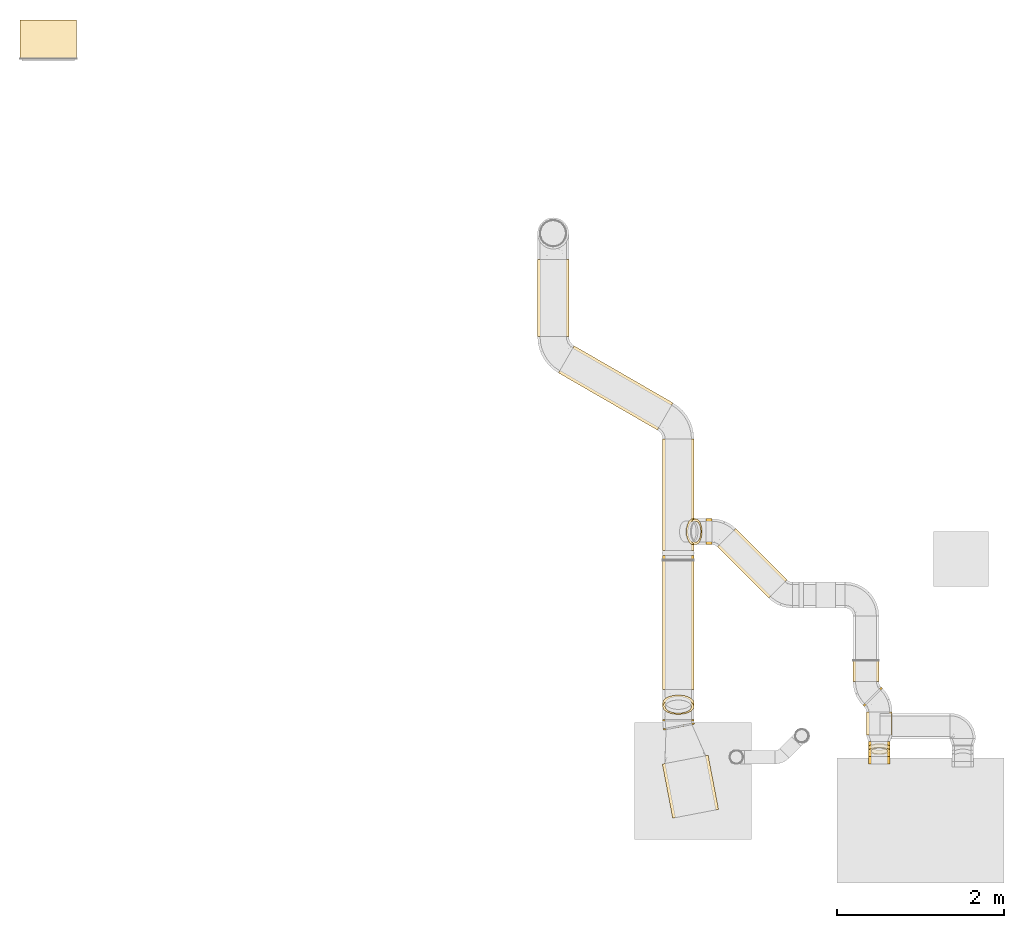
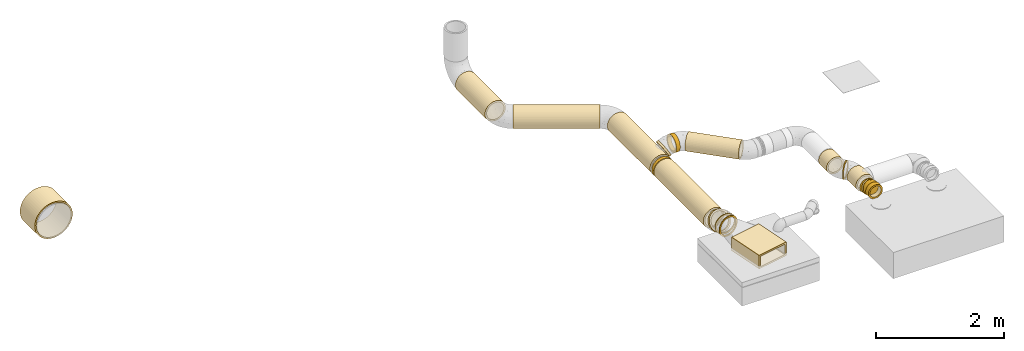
# One storey, part 1 of 21: 20 coverings.
"""IFC2X3 building model written with IfcOpenShell, lengths in millimetres."""

from ifc_helpers import new_model, entity, si_unit, converted_unit, derived_unit, direction, frame, origin_with_axes, origin_2d_with_axis, place, context, subcontext, project, spatial, hollow_rectangle, hollow_circle, extrude, open_shell, surface_model, source, transform, mapped, element, save


model = new_model("IFC2X3")

# Units and contexts
model_context = context("Model", 3, precision=0.01, world=frame((0.0, 4.29681676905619e-09, 0.0)), true_north=direction((4.01073788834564e-13, 1.0)))
plan_context = context("Plan", 3, precision=0.01, world=frame((0.0, 4.29681676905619e-09, 0.0)), true_north=direction((4.01073788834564e-13, 1.0)))
body_context = subcontext(model_context, "Body", "Model", "MODEL_VIEW")
ifc_project = project(units=[converted_unit("PLANEANGLEUNIT", "DEGREE", entity("IfcPositiveLengthMeasure", 0.0174532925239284), si_unit("PLANEANGLEUNIT", "RADIAN"), dimensions=[0, 0, 0, 0, 0, 0, 0]), si_unit("AREAUNIT", "SQUARE_METRE"), si_unit("LENGTHUNIT", "METRE", prefix="MILLI"), si_unit("MASSUNIT", "GRAM", prefix="KILO"), si_unit("POWERUNIT", "WATT"), si_unit("PRESSUREUNIT", "PASCAL"), si_unit("FORCEUNIT", "NEWTON", prefix="KILO"), si_unit("ELECTRICVOLTAGEUNIT", "VOLT"), si_unit("ELECTRICCURRENTUNIT", "AMPERE"), si_unit("THERMODYNAMICTEMPERATUREUNIT", "DEGREE_CELSIUS"), si_unit("TIMEUNIT", "SECOND"), si_unit("VOLUMEUNIT", "CUBIC_METRE"), derived_unit("LINEARVELOCITYUNIT", [(si_unit("LENGTHUNIT", "METRE"), 1), (si_unit("TIMEUNIT", "SECOND"), -1)]), derived_unit("VOLUMETRICFLOWRATEUNIT", [(si_unit("VOLUMEUNIT", "CUBIC_METRE"), 1), (si_unit("TIMEUNIT", "SECOND"), -1)]), derived_unit("THERMALTRANSMITTANCEUNIT", [(si_unit("POWERUNIT", "WATT"), 1), (si_unit("THERMODYNAMICTEMPERATUREUNIT", "KELVIN"), -1), (si_unit("AREAUNIT", "SQUARE_METRE"), -1)]), derived_unit("SOUNDPRESSUREUNIT", [(si_unit("PRESSUREUNIT", "PASCAL"), 1)])], contexts=[model_context, plan_context])

# Site, building, storey
site_placement = place(None, frame((0.0, -4.29681676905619e-09, 0.0), z_axis=(0.0, 0.0, 1.0), x_axis=(1.0, 0.0, 0.0)))
site = spatial("IfcSite", under=ifc_project, at=site_placement, Name="ENGM", CompositionType="ELEMENT")
building_placement = place(site_placement, frame((0.0, 4.29681676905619e-09, 0.0), z_axis=(0.0, 0.0, 1.0), x_axis=(1.0, 0.0, 0.0)))
building = spatial("IfcBuilding", under=site, at=building_placement, Name="TI", CompositionType="ELEMENT")
storey_placement = place(building_placement, frame((0.0, 0.0, 210900.0), z_axis=(0.0, 0.0, 1.0), x_axis=(1.0, 0.0, 0.0)))
storey = spatial("IfcBuildingStorey", under=building, at=storey_placement, Name="Nivå F", CompositionType="ELEMENT", Elevation=210900.0)

# Coverings
shared_shape_1 = source(origin_with_axes(), body_context, "Body", "SweptSolid", [
    extrude(hollow_circle(Radius=340.0, WallThickness=25.0, at=origin_2d_with_axis()), frame((0.0, 0.0, 0.0), z_axis=(1.0, 0.0, 0.0), x_axis=(0.0, 1.0, 0.0)), (0.0, 0.0, 1.0), 464.2),
])
covering_1_placement = place(storey_placement, frame((599767.06731, 699195.62991, 463.400699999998), z_axis=(-1.999999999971e-06, 4.9999999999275e-06, 0.9999999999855), x_axis=(-2.1999999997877e-11, 0.9999999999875, -4.9999999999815e-06)))
element("IfcCovering", 1, at=covering_1_placement, inside=storey, Name="T=25mm", PredefinedType="INSULATION", context=body_context, shape_type="MappedRepresentation", body=[
    mapped(shared_shape_1, transform((0.0, 0.0, 0.0), scale=1.0)),
])
shared_shape_2 = source(origin_with_axes(), body_context, "Body", "SweptSolid", [
    extrude(hollow_circle(Radius=187.5, WallThickness=30.0, at=origin_2d_with_axis()), frame((0.0, 0.0, 0.0), z_axis=(1.0, 0.0, 0.0), x_axis=(0.0, 1.0, 0.0)), (0.0, 0.0, 1.0), 923.1),
])
covering_2_placement = place(storey_placement, frame((605819.77046, 696786.72271, 2446.77402000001), z_axis=(0.0, 0.0, 1.0), x_axis=(0.0, -1.0, 0.0)))
element("IfcCovering", 2, at=covering_2_placement, inside=storey, Name="B-EI60", PredefinedType="INSULATION", context=body_context, shape_type="MappedRepresentation", body=[
    mapped(shared_shape_2, transform((0.0, 0.0, 0.0), scale=1.0)),
])
shared_shape_3 = source(origin_with_axes(), body_context, "Body", "SweptSolid", [
    extrude(hollow_circle(Radius=187.5, WallThickness=30.0, at=origin_2d_with_axis()), frame((0.0, 0.0, 0.0), z_axis=(1.0, 0.0, 0.0), x_axis=(0.0, 1.0, 0.0)), (0.0, 0.0, 1.0), 1368.3),
])
covering_3_placement = place(storey_placement, frame((605977.27046, 695590.79004, 2446.77402000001), z_axis=(0.0, 0.0, 1.0), x_axis=(0.866025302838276, -0.500000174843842, 0.0)))
element("IfcCovering", 3, at=covering_3_placement, inside=storey, Name="B-EI60", PredefinedType="INSULATION", context=body_context, shape_type="MappedRepresentation", body=[
    mapped(shared_shape_3, transform((0.0, 0.0, 0.0), scale=1.0)),
])
shared_shape_4 = source(origin_with_axes(), body_context, "Body", "SweptSolid", [
    extrude(hollow_circle(Radius=155.0, WallThickness=30.0, at=origin_2d_with_axis()), frame((0.0, 0.0, 0.0), z_axis=(1.0, 0.0, 0.0), x_axis=(0.0, 1.0, 0.0)), (0.0, 0.0, 1.0), 38.0),
])
covering_4_placement = place(storey_placement, frame((607527.17533, 693525.29135, 2566.50633999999), z_axis=(-0.500000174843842, 0.0, 0.866025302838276), x_axis=(-0.866025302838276, 0.0, -0.500000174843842)))
element("IfcCovering", 4, at=covering_4_placement, inside=storey, Name="B-EI60", PredefinedType="INSULATION", context=body_context, shape_type="MappedRepresentation", body=[
    mapped(shared_shape_4, transform((0.0, 0.0, 0.0), scale=1.0)),
])
shared_shape_5 = source(origin_with_axes(), body_context, "Body", "SweptSolid", [
    extrude(hollow_circle(Radius=187.5, WallThickness=30.0, at=origin_2d_with_axis()), frame((0.0, 0.0, 0.0), z_axis=(1.0, 0.0, 0.0), x_axis=(0.0, 1.0, 0.0)), (0.0, 0.0, 1.0), 1336.6),
])
covering_5_placement = place(storey_placement, frame((607319.79165, 694633.81974, 2446.77914), z_axis=(0.0, 0.0, 1.0), x_axis=(0.0, -1.0, 0.0)))
element("IfcCovering", 5, at=covering_5_placement, inside=storey, Name="B-EI60", PredefinedType="INSULATION", context=body_context, shape_type="MappedRepresentation", body=[
    mapped(shared_shape_5, transform((0.0, 0.0, 0.0), scale=1.0)),
])
shared_shape_6 = source(origin_with_axes(), body_context, "Body", "SweptSolid", [
    extrude(hollow_circle(Radius=155.0, WallThickness=30.0, at=origin_2d_with_axis()), frame((0.0, 0.0, 0.0), z_axis=(1.0, 0.0, 0.0), x_axis=(0.0, 1.0, 0.0)), (0.0, 0.0, 1.0), 867.7),
])
covering_6_placement = place(storey_placement, frame((608512.376, 692838.51465, 2600.0), z_axis=(0.0, 0.0, 1.0), x_axis=(-0.707106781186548, 0.707106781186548, 0.0)))
element("IfcCovering", 6, at=covering_6_placement, inside=storey, Name="B-EI60", PredefinedType="INSULATION", context=body_context, shape_type="MappedRepresentation", body=[
    mapped(shared_shape_6, transform((0.0, 0.0, 0.0), scale=1.0)),
])
shared_shape_7 = source(origin_with_axes(), body_context, "Body", "SweptSolid", [
    extrude(hollow_circle(Radius=155.0, WallThickness=30.0, at=origin_2d_with_axis()), frame((0.0, 0.0, 0.0), z_axis=(1.0, 0.0, 0.0), x_axis=(0.0, 1.0, 0.0)), (0.0, 0.0, 1.0), 69.9),
])
covering_7_placement = place(storey_placement, frame((607652.17535, 693525.29135, 2600.0), z_axis=(0.0, 0.0, 1.0), x_axis=(1.0, 0.0, 0.0)))
element("IfcCovering", 7, at=covering_7_placement, inside=storey, Name="B-EI60", PredefinedType="INSULATION", context=body_context, shape_type="MappedRepresentation", body=[
    mapped(shared_shape_7, transform((0.0, 0.0, 0.0), scale=1.0)),
])
shared_shape_8 = source(origin_with_axes(), body_context, "Body", "SweptSolid", [
    extrude(hollow_circle(Radius=155.0, WallThickness=30.0, at=origin_2d_with_axis()), frame((0.0, 0.0, 0.0), z_axis=(1.0, 0.0, 0.0), x_axis=(0.0, 1.0, 0.0)), (0.0, 0.0, 1.0), 276.2),
])
covering_8_placement = place(storey_placement, frame((609729.51365, 691361.73795, 2600.0), z_axis=(0.0, 0.0, 1.0), x_axis=(0.0, -1.0, 0.0)))
element("IfcCovering", 8, at=covering_8_placement, inside=storey, Name="B-EI60", PredefinedType="INSULATION", context=body_context, shape_type="MappedRepresentation", body=[
    mapped(shared_shape_8, transform((0.0, 0.0, 0.0), scale=1.0)),
])
shared_shape_9 = source(origin_with_axes(), body_context, "Body", "SweptSolid", [
    extrude(hollow_rectangle(XDim=560.0, YDim=260.0, WallThickness=30.0, at=origin_2d_with_axis()), frame((0.0, 0.0, 0.0), z_axis=(1.0, 0.0, 0.0), x_axis=(0.0, 1.0, 0.0)), (0.0, 0.0, 1.0), 660.0),
])
covering_9_placement = place(storey_placement, frame((607402.98574, 690791.51807, 2556.76615000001), z_axis=(5.0821976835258e-21, 1.5999999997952e-05, 0.999999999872), x_axis=(0.18840604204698, -0.982091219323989, 1.57134595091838e-05)))
element("IfcCovering", 9, at=covering_9_placement, inside=storey, Name="B-EI60", PredefinedType="INSULATION", context=body_context, shape_type="MappedRepresentation", body=[
    mapped(shared_shape_9, transform((0.0, 0.0, 0.0), scale=1.0)),
])
shared_shape_10 = source(origin_with_axes(), body_context, "Body", "SweptSolid", [
    extrude(hollow_circle(Radius=187.5, WallThickness=30.0, at=origin_2d_with_axis()), frame((0.0, 0.0, 0.0), z_axis=(1.0, 0.0, 0.0), x_axis=(0.0, 1.0, 0.0)), (0.0, 0.0, 1.0), 56.6),
])
covering_10_placement = place(storey_placement, frame((607319.79165, 693242.22474, 2446.77914), z_axis=(0.0, 0.0, 1.0), x_axis=(0.0, -1.0, 0.0)))
element("IfcCovering", 10, at=covering_10_placement, inside=storey, Name="B-EI60", PredefinedType="INSULATION", context=body_context, shape_type="MappedRepresentation", body=[
    mapped(shared_shape_10, transform((0.0, 0.0, 0.0), scale=1.0)),
])
shared_shape_11 = source(origin_with_axes(), body_context, "Body", "SweptSolid", [
    extrude(hollow_circle(Radius=187.5, WallThickness=30.0, at=origin_2d_with_axis()), frame((0.0, 0.0, 0.0), z_axis=(1.0, 0.0, 0.0), x_axis=(0.0, 1.0, 0.0)), (0.0, 0.0, 1.0), 1545.5),
])
covering_11_placement = place(storey_placement, frame((607319.79165, 693175.62344, 2446.77914), z_axis=(0.0, 0.0, 1.0), x_axis=(0.0, -1.0, 0.0)))
element("IfcCovering", 11, at=covering_11_placement, inside=storey, Name="B-EI60", PredefinedType="INSULATION", context=body_context, shape_type="MappedRepresentation", body=[
    mapped(shared_shape_11, transform((0.0, 0.0, 0.0), scale=1.0)),
])
shared_shape_12 = source(origin_with_axes(), body_context, "Body", "SweptSolid", [
    extrude(hollow_circle(Radius=155.0, WallThickness=30.0, at=origin_2d_with_axis()), frame((0.0, 0.0, 0.0), z_axis=(1.0, 0.0, 0.0), x_axis=(0.0, 1.0, 0.0)), (0.0, 0.0, 1.0), 246.4),
])
covering_12_placement = place(storey_placement, frame((609569.51365, 691975.29135, 2600.0), z_axis=(0.0, 0.0, 1.0), x_axis=(0.0, -1.0, 0.0)))
element("IfcCovering", 12, at=covering_12_placement, inside=storey, Name="B-EI60", PredefinedType="INSULATION", context=body_context, shape_type="MappedRepresentation", body=[
    mapped(shared_shape_12, transform((0.0, 0.0, 0.0), scale=1.0)),
])
shared_shape_13 = source(origin_with_axes(), body_context, "Body", "SweptSolid", [
    extrude(hollow_circle(Radius=155.0, WallThickness=30.0, at=origin_2d_with_axis()), frame((0.0, 0.0, 0.0), z_axis=(1.0, 0.0, 0.0), x_axis=(0.0, 1.0, 0.0)), (0.0, 0.0, 1.0), 19.2),
])
covering_13_placement = place(storey_placement, frame((609642.73695, 691552.06804, 2600.0), z_axis=(0.0, 0.0, 1.0), x_axis=(0.707106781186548, -0.707106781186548, 0.0)))
element("IfcCovering", 13, at=covering_13_placement, inside=storey, Name="B-EI60", PredefinedType="INSULATION", context=body_context, shape_type="MappedRepresentation", body=[
    mapped(shared_shape_13, transform((0.0, 0.0, 0.0), scale=1.0)),
])
shared_shape_14 = source(origin_with_axes(), body_context, "Body", "SweptSolid", [
    extrude(hollow_circle(Radius=130.0, WallThickness=30.0, at=origin_2d_with_axis()), frame((0.0, 0.0, 0.0), z_axis=(1.0, 0.0, 0.0), x_axis=(0.0, 1.0, 0.0)), (0.0, 0.0, 1.0), 49.5),
])
covering_14_placement = place(storey_placement, frame((609729.51365, 690942.15271, 2612.06148), z_axis=(0.0, 0.342019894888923, 0.939692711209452), x_axis=(0.0, -0.939692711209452, 0.342019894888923)))
element("IfcCovering", 14, at=covering_14_placement, inside=storey, Name="B-EI60", PredefinedType="INSULATION", context=body_context, shape_type="MappedRepresentation", body=[
    mapped(shared_shape_14, transform((0.0, 0.0, 0.0), scale=1.0)),
])
shared_shape_15 = source(origin_with_axes(), body_context, "Body", "SurfaceModel", [
    surface_model("IfcShellBasedSurfaceModel", [(-10.77631, 132.71679, -20.3414), (-11.32399, 134.22151, 0.0), (-10.77661, 132.71761, 20.33591), (7.00324, 83.86787, 105.17026), (12.95186, 67.52419, 115.8291), (19.39751, 49.81488, 123.636), (7.00479, 83.86363, -105.17353), (1.69949, 98.43981, -91.92586), (12.95355, 67.51954, -115.83162), (64.57778, -74.31686, 91.92586), (69.10898, -86.76624, 76.41477), (72.75452, -96.78228, 59.02218), (72.75538, -96.78464, -59.01724), (69.1101, -86.76932, -76.41026), (64.57913, -74.32057, -91.92191), (77.05387, -108.59466, -20.33591), (75.42522, -104.11996, -40.17112), (-35.2654, 91.92389, -91.92389), (-35.2654, 125.57036, -33.64648), (-35.2654, 112.5833, -65.0), (-35.2654, -125.57036, 33.64648), (-35.2654, -130.0, 0.0), (22.0385, -124.98656, 0.0), (-35.2654, -91.92389, 91.92389), (-35.2654, -112.5833, 65.0), (59.27248, -59.74068, 105.17353), (-35.2654, -65.0, 112.5833), (40.09392, -7.04803, 128.39958), (-0.53576, 3.03845, 130.0), (-35.2654, -33.64648, 125.57036), (-35.2654, 0.0, 130.0), (33.13863, 12.06148, 130.0), (46.87796, -25.68702, 123.6377), (77.05357, -108.59384, 20.3414), (75.42464, -104.11836, 40.17634), (53.32372, -43.39659, 115.83162), (77.60125, -110.09857, 0.0), (-35.2654, 33.64648, 125.57036), (-35.2654, 65.0, 112.5833), (26.18146, 31.17614, 128.3987), (-35.2654, 91.92389, 91.92389), (-35.2654, 130.0, 0.0), (-35.2654, 125.57036, 33.64648), (-23.11002, 131.06346, 0.0), (-35.2654, 112.5833, 65.0), (-2.83284, 110.89227, 76.41026), (-6.47812, 120.9076, 59.01724), (1.69814, 98.44353, 91.92191), (-9.14795, 128.24291, 40.17112), (-9.14737, 128.24132, -40.17634), (-6.47725, 120.90523, -59.02218), (-2.83171, 110.88919, -76.41477), (-35.2654, 0.0, -130.0), (-35.2654, 33.64648, -125.57036), (-0.53576, 3.03845, -130.0), (-35.2654, 65.0, -112.5833), (26.18334, 31.17098, -128.39958), (19.3993, 49.80998, -123.6377), (33.13863, 12.06148, -130.0), (46.87975, -25.69193, -123.636), (-35.2654, -65.0, -112.5833), (-35.2654, -33.64648, -125.57036), (40.0958, -7.05319, -128.3987), (-35.2654, -91.92389, -91.92389), (59.27402, -59.74492, -105.17026), (-35.2654, -125.57036, -33.64648), (-35.2654, -112.5833, -65.0), (53.32541, -43.40123, -115.8291)], [open_shell([[[0, 1, 2]], [[3, 4, 5]], [[6, 7, 8]], [[9, 10, 11]], [[12, 13, 14]], [[12, 15, 16]], [[17, 18, 19]], [[20, 21, 22]], [[23, 24, 10]], [[20, 11, 24]], [[25, 26, 23]], [[27, 28, 29]], [[28, 30, 29]], [[27, 31, 28]], [[32, 29, 26]], [[22, 33, 20]], [[10, 24, 11]], [[20, 33, 34]], [[34, 11, 20]], [[9, 23, 10]], [[29, 32, 27]], [[25, 35, 26]], [[32, 26, 35]], [[23, 9, 25]], [[22, 36, 33]], [[37, 30, 28]], [[38, 4, 3]], [[37, 5, 38]], [[39, 37, 28]], [[38, 3, 40]], [[41, 42, 43]], [[44, 40, 45]], [[46, 42, 44]], [[42, 2, 43]], [[47, 40, 3]], [[45, 40, 47]], [[38, 5, 4]], [[37, 39, 5]], [[28, 31, 39]], [[48, 42, 46]], [[43, 2, 1]], [[48, 2, 42]], [[46, 44, 45]], [[18, 41, 43]], [[19, 49, 50]], [[18, 49, 19]], [[0, 18, 43]], [[17, 19, 51]], [[52, 53, 54]], [[55, 17, 6]], [[8, 53, 55]], [[53, 56, 54]], [[50, 51, 19]], [[0, 49, 18]], [[43, 1, 0]], [[7, 6, 17]], [[57, 53, 8]], [[54, 56, 58]], [[57, 56, 53]], [[8, 55, 6]], [[17, 51, 7]], [[59, 60, 61]], [[61, 54, 62]], [[52, 54, 61]], [[63, 60, 64]], [[21, 65, 22]], [[12, 65, 66]], [[63, 13, 66]], [[65, 15, 22]], [[54, 58, 62]], [[59, 67, 60]], [[64, 14, 63]], [[64, 60, 67]], [[13, 63, 14]], [[16, 65, 12]], [[15, 36, 22]], [[65, 16, 15]], [[66, 13, 12]], [[59, 61, 62]], [[48, 46, 5]], [[2, 48, 49]], [[5, 46, 45]], [[5, 49, 48]], [[3, 5, 47]], [[45, 47, 5]], [[5, 62, 49]], [[56, 51, 49]], [[49, 51, 50]], [[7, 51, 56]], [[0, 2, 49]], [[7, 57, 8]], [[56, 57, 7]], [[62, 56, 49]], [[56, 62, 58]], [[39, 62, 5]], [[27, 62, 31]], [[62, 27, 35]], [[35, 27, 32]], [[25, 9, 35]], [[9, 34, 62]], [[34, 9, 11]], [[35, 9, 62]], [[62, 34, 33]], [[14, 64, 59]], [[14, 59, 62]], [[59, 64, 67]], [[14, 62, 36]], [[36, 15, 12]], [[12, 14, 36]], [[62, 33, 36]], [[31, 62, 39]], [[17, 41, 18]], [[55, 53, 41]], [[55, 41, 17]], [[41, 53, 30]], [[44, 37, 40]], [[37, 44, 42]], [[40, 37, 38]], [[42, 41, 37]], [[41, 30, 37]], [[53, 61, 30]], [[29, 30, 61]], [[60, 29, 61]], [[66, 21, 60]], [[66, 60, 63]], [[21, 66, 65]], [[29, 23, 26]], [[23, 29, 21]], [[24, 21, 20]], [[21, 24, 23]], [[29, 60, 21]], [[61, 53, 52]]])]),
])
covering_15_placement = place(storey_placement, frame((609729.51365, 690975.29135, 2600.0), z_axis=(-1.0, 0.0, 0.0), x_axis=(0.0, -1.0, 0.0)))
element("IfcCovering", 15, at=covering_15_placement, inside=storey, Name="B-EI60", PredefinedType="INSULATION", context=body_context, shape_type="MappedRepresentation", body=[
    mapped(shared_shape_15, transform((0.0, 0.0, 0.0), scale=1.0)),
])
shared_shape_16 = source(origin_with_axes(), body_context, "Body", "SweptSolid", [
    extrude(hollow_circle(Radius=130.0, WallThickness=30.0, at=origin_2d_with_axis()), frame((0.0, 0.0, 0.0), z_axis=(1.0, 0.0, 0.0), x_axis=(0.0, 1.0, 0.0)), (0.0, 0.0, 1.0), 84.7),
])
covering_16_placement = place(storey_placement, frame((609729.51365, 690827.26283, 2641.04242000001), z_axis=(0.0, 0.0, 1.0), x_axis=(0.0, -1.0, 0.0)))
element("IfcCovering", 16, at=covering_16_placement, inside=storey, Name="B-EI60", PredefinedType="INSULATION", context=body_context, shape_type="MappedRepresentation", body=[
    mapped(shared_shape_16, transform((0.0, 0.0, 0.0), scale=1.0)),
])
shared_shape_17 = source(origin_with_axes(), body_context, "Body", "SurfaceModel", [
    surface_model("IfcShellBasedSurfaceModel", [(64.57778, -74.31686, 91.92586), (69.10898, -86.76624, 76.41477), (72.75452, -96.78228, 59.02218), (75.42464, -104.11836, 40.17634), (77.05357, -108.59384, 20.3414), (64.57913, -74.32057, -91.92191), (59.27402, -59.74492, -105.17026), (53.32541, -43.40123, -115.8291), (-35.2654, 91.92389, -91.92389), (-35.2654, 125.57036, -33.64648), (-35.2654, 112.5833, -65.0), (-35.2654, -125.57036, 33.64648), (-35.2654, -130.0, 0.0), (22.0385, -124.98656, 0.0), (-35.2654, -91.92389, 91.92389), (-35.2654, -112.5833, 65.0), (59.27248, -59.74068, 105.17353), (-35.2654, -65.0, 112.5833), (40.09392, -7.04803, 128.39958), (-0.53576, 3.03845, 130.0), (-35.2654, -33.64648, 125.57036), (-35.2654, 0.0, 130.0), (33.13863, 12.06148, 130.0), (46.87796, -25.68702, 123.6377), (53.32372, -43.39659, 115.83162), (77.60125, -110.09857, 0.0), (-35.2654, 33.64648, 125.57036), (-35.2654, 65.0, 112.5833), (12.95186, 67.52419, 115.8291), (7.00324, 83.86787, 105.17026), (19.39751, 49.81488, 123.636), (26.18146, 31.17614, 128.3987), (-35.2654, 91.92389, 91.92389), (-35.2654, 130.0, 0.0), (-35.2654, 125.57036, 33.64648), (-23.11002, 131.06346, 0.0), (-35.2654, 112.5833, 65.0), (-2.83284, 110.89227, 76.41026), (-6.47812, 120.9076, 59.01724), (-10.77661, 132.71761, 20.33591), (1.69814, 98.44353, 91.92191), (-9.14795, 128.24291, 40.17112), (-11.32399, 134.22151, 0.0), (-9.14737, 128.24132, -40.17634), (-6.47725, 120.90523, -59.02218), (-10.77631, 132.71679, -20.3414), (-2.83171, 110.88919, -76.41477), (-35.2654, 0.0, -130.0), (-35.2654, 33.64648, -125.57036), (-0.53576, 3.03845, -130.0), (-35.2654, 65.0, -112.5833), (7.00479, 83.86363, -105.17353), (12.95355, 67.51954, -115.83162), (26.18334, 31.17098, -128.39958), (1.69949, 98.43981, -91.92586), (19.3993, 49.80998, -123.6377), (33.13863, 12.06148, -130.0), (46.87975, -25.69193, -123.636), (-35.2654, -65.0, -112.5833), (-35.2654, -33.64648, -125.57036), (40.0958, -7.05319, -128.3987), (-35.2654, -91.92389, -91.92389), (-35.2654, -125.57036, -33.64648), (72.75538, -96.78464, -59.01724), (-35.2654, -112.5833, -65.0), (69.1101, -86.76932, -76.41026), (77.05387, -108.59466, -20.33591), (75.42522, -104.11996, -40.17112)], [open_shell([[[0, 1, 2]], [[2, 3, 4]], [[5, 6, 7]], [[8, 9, 10]], [[11, 12, 13]], [[14, 15, 1]], [[11, 2, 15]], [[16, 17, 14]], [[18, 19, 20]], [[19, 21, 20]], [[18, 22, 19]], [[23, 20, 17]], [[13, 4, 11]], [[1, 15, 2]], [[11, 4, 3]], [[3, 2, 11]], [[0, 14, 1]], [[20, 23, 18]], [[16, 24, 17]], [[23, 17, 24]], [[14, 0, 16]], [[13, 25, 4]], [[26, 21, 19]], [[27, 28, 29]], [[26, 30, 27]], [[31, 26, 19]], [[27, 29, 32]], [[33, 34, 35]], [[36, 32, 37]], [[38, 34, 36]], [[34, 39, 35]], [[40, 32, 29]], [[37, 32, 40]], [[27, 30, 28]], [[26, 31, 30]], [[19, 22, 31]], [[41, 34, 38]], [[35, 39, 42]], [[41, 39, 34]], [[38, 36, 37]], [[9, 33, 35]], [[10, 43, 44]], [[9, 43, 10]], [[45, 9, 35]], [[8, 10, 46]], [[47, 48, 49]], [[50, 8, 51]], [[52, 48, 50]], [[48, 53, 49]], [[44, 46, 10]], [[45, 43, 9]], [[35, 42, 45]], [[54, 51, 8]], [[55, 48, 52]], [[49, 53, 56]], [[55, 53, 48]], [[52, 50, 51]], [[8, 46, 54]], [[57, 58, 59]], [[59, 49, 60]], [[47, 49, 59]], [[61, 58, 6]], [[12, 62, 13]], [[63, 62, 64]], [[61, 65, 64]], [[62, 66, 13]], [[49, 56, 60]], [[57, 7, 58]], [[6, 5, 61]], [[6, 58, 7]], [[65, 61, 5]], [[67, 62, 63]], [[66, 25, 13]], [[62, 67, 66]], [[64, 65, 63]], [[57, 59, 60]], [[22, 60, 31]], [[8, 33, 9]], [[50, 48, 33]], [[50, 33, 8]], [[33, 48, 21]], [[36, 26, 32]], [[26, 36, 34]], [[32, 26, 27]], [[34, 33, 26]], [[33, 21, 26]], [[48, 59, 21]], [[20, 21, 59]], [[58, 20, 59]], [[64, 12, 58]], [[64, 58, 61]], [[12, 64, 62]], [[20, 14, 17]], [[14, 20, 12]], [[15, 12, 11]], [[12, 15, 14]], [[20, 58, 12]], [[59, 48, 47]], [[38, 37, 41]], [[42, 39, 41]], [[41, 43, 42]], [[41, 37, 28]], [[41, 30, 56]], [[29, 28, 37]], [[28, 30, 41]], [[29, 37, 40]], [[60, 56, 30]], [[44, 43, 41]], [[44, 56, 46]], [[54, 46, 51]], [[43, 45, 42]], [[51, 46, 52]], [[46, 53, 55]], [[52, 46, 55]], [[56, 53, 46]], [[56, 44, 41]], [[30, 31, 60]], [[4, 22, 18]], [[4, 23, 24]], [[18, 23, 4]], [[4, 24, 16]], [[2, 4, 0]], [[0, 4, 16]], [[22, 4, 60]], [[65, 5, 57]], [[57, 5, 7]], [[65, 57, 60]], [[66, 67, 4]], [[65, 67, 63]], [[65, 4, 67]], [[65, 60, 4]], [[66, 4, 25]]])]),
])
covering_17_placement = place(storey_placement, frame((609729.51365, 690862.52823, 2641.04242000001), z_axis=(1.0, 0.0, 0.0), x_axis=(0.0, -0.939692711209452, 0.342019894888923)))
element("IfcCovering", 17, at=covering_17_placement, inside=storey, Name="B-EI60", PredefinedType="INSULATION", context=body_context, shape_type="MappedRepresentation", body=[
    mapped(shared_shape_17, transform((0.0, 0.0, 0.0), scale=1.0)),
])
shared_shape_18 = source(origin_with_axes(), body_context, "Body", "SweptSolid", [
    extrude(hollow_circle(Radius=187.5, WallThickness=30.0, at=origin_2d_with_axis()), frame((0.0, 0.0, 0.0), z_axis=(1.0, 0.0, 0.0), x_axis=(0.0, 1.0, 0.0)), (0.0, 0.0, 1.0), 11.6),
])
covering_18_placement = place(storey_placement, frame((607327.62342, 691184.35457, 2556.76903), z_axis=(4.59999986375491e-05, -0.000238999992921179, 0.999999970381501), x_axis=(-0.188406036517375, 0.982091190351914, 0.000243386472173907)))
element("IfcCovering", 18, at=covering_18_placement, inside=storey, Name="T=25mm", PredefinedType="INSULATION", context=body_context, shape_type="MappedRepresentation", body=[
    mapped(shared_shape_18, transform((0.0, 0.0, 0.0), scale=1.0)),
])
shared_shape_19 = source(origin_with_axes(), body_context, "Body", "SweptSolid", [
    extrude(hollow_circle(Radius=187.5, WallThickness=30.0, at=origin_2d_with_axis()), frame((0.0, 0.0, 0.0), z_axis=(1.0, 0.0, 0.0), x_axis=(0.0, 1.0, 0.0)), (0.0, 0.0, 1.0), 15.7),
])
covering_19_placement = place(storey_placement, frame((607319.79165, 691255.12083, 2556.77914), z_axis=(0.0, 0.0, 1.0), x_axis=(0.0, 1.0, 0.0)))
element("IfcCovering", 19, at=covering_19_placement, inside=storey, Name="T=25mm", PredefinedType="INSULATION", context=body_context, shape_type="MappedRepresentation", body=[
    mapped(shared_shape_19, transform((0.0, 0.0, 0.0), scale=1.0)),
])
shared_shape_20 = source(origin_with_axes(), body_context, "Body", "SweptSolid", [
    extrude(hollow_circle(Radius=187.5, WallThickness=30.0, at=origin_2d_with_axis()), frame((0.0, 0.0, 0.0), z_axis=(1.0, 0.0, 0.0), x_axis=(0.0, 1.0, 0.0)), (0.0, 0.0, 1.0), 51.2),
])
covering_20_placement = place(storey_placement, frame((607319.79165, 691428.27479, 2514.57714000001), z_axis=(0.0, 0.500000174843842, 0.866025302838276), x_axis=(0.0, 0.866025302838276, -0.500000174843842)))
element("IfcCovering", 20, at=covering_20_placement, inside=storey, Name="T=25mm", PredefinedType="INSULATION", context=body_context, shape_type="MappedRepresentation", body=[
    mapped(shared_shape_20, transform((0.0, 0.0, 0.0), scale=1.0)),
])

save(model, "model.ifc")
